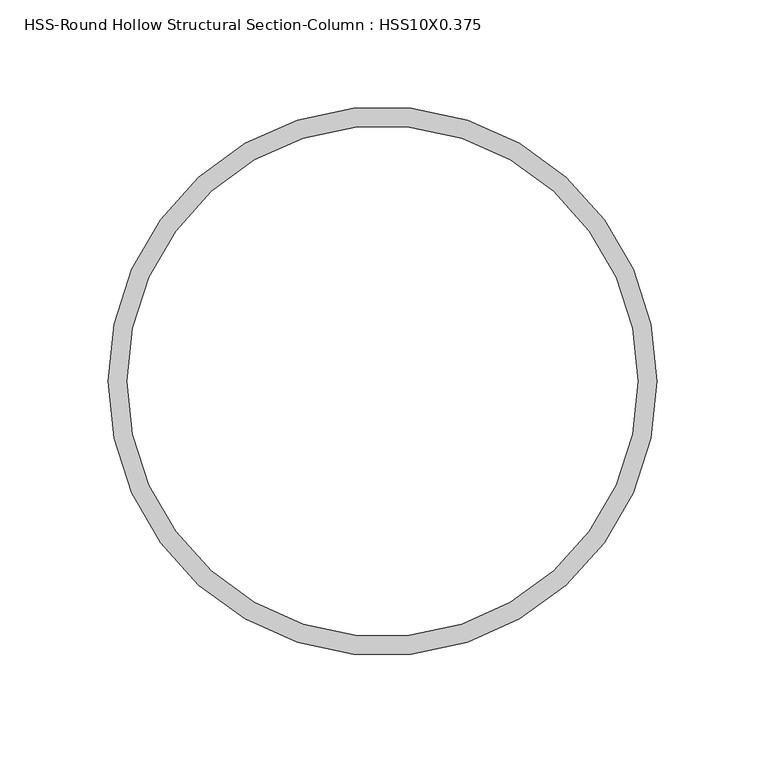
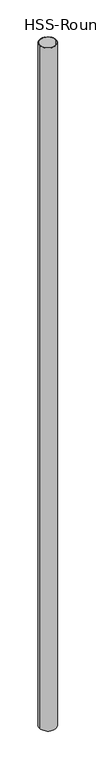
"""IFC4 building model written with IfcOpenShell, lengths in millimetres: column geometry, HSS-Round Hollow Structural Section-Column : HSS10X0.375."""

from ifc_helpers import new_model, si_unit, point, frame, origin, origin_2d, place, context, project, spatial, circle_curve, trimmed, segment, composite_curve, outline, extrude, source, transform, mapped, element, save


def hss_round_hollow_structural_section_column_hss10x0_375_e5a783f9(model_context):
    return source(origin(), model_context, "Body", "SweptSolid", [
        extrude(outline(composite_curve([segment(trimmed(circle_curve(origin_2d(), 127.0), [point((-127.0, 0.0))], [point((127.0, 0.0))], False, "CARTESIAN"), True, "CONTINUOUS"), segment(trimmed(circle_curve(origin_2d(), 127.0), [point((127.0, 0.0))], [point((-127.0, 0.0))], False, "CARTESIAN"), True, "CONTINUOUS")], self_intersect=False), holes=[composite_curve([segment(trimmed(circle_curve(origin_2d(), 118.1354), [point((-118.1354, 0.0))], [point((118.1354, 0.0))], True, "CARTESIAN"), True, "CONTINUOUS"), segment(trimmed(circle_curve(origin_2d(), 118.1354), [point((118.1354, 0.0))], [point((-118.1354, 0.0))], True, "CARTESIAN"), True, "CONTINUOUS")], self_intersect=False)]), frame((0.0, 0.0, 45110.4), z_axis=(0.0, 0.0, 1.0), x_axis=(1.0, 0.0, 0.0)), (0.0, 0.0, 1.0), 10967.6),
    ])


if __name__ == "__main__":
    model = new_model("IFC4")
    model_context = context("Model", 3, world=origin())
    ifc_project = project(units=[si_unit("LENGTHUNIT", "METRE", prefix="MILLI")], contexts=[model_context])
    site = spatial("IfcSite", under=ifc_project)
    building = spatial("IfcBuilding", under=site)
    placement = place(None, origin())
    hss_round_hollow_structural_section_column_hss10x0_375_shape = hss_round_hollow_structural_section_column_hss10x0_375_e5a783f9(model_context)
    element("IfcColumn", 1, ObjectType="HSS-Round Hollow Structural Section-Column : HSS10X0.375", at=placement, inside=building, context=model_context, shape_type="MappedRepresentation", body=[
        mapped(hss_round_hollow_structural_section_column_hss10x0_375_shape, transform((0.0, 0.0, 0.0), x_axis=(1.0, 0.0, 0.0), y_axis=(0.0, 1.0, 0.0), z_axis=(0.0, 0.0, 1.0))),
    ])
    save(model, "model.ifc")
